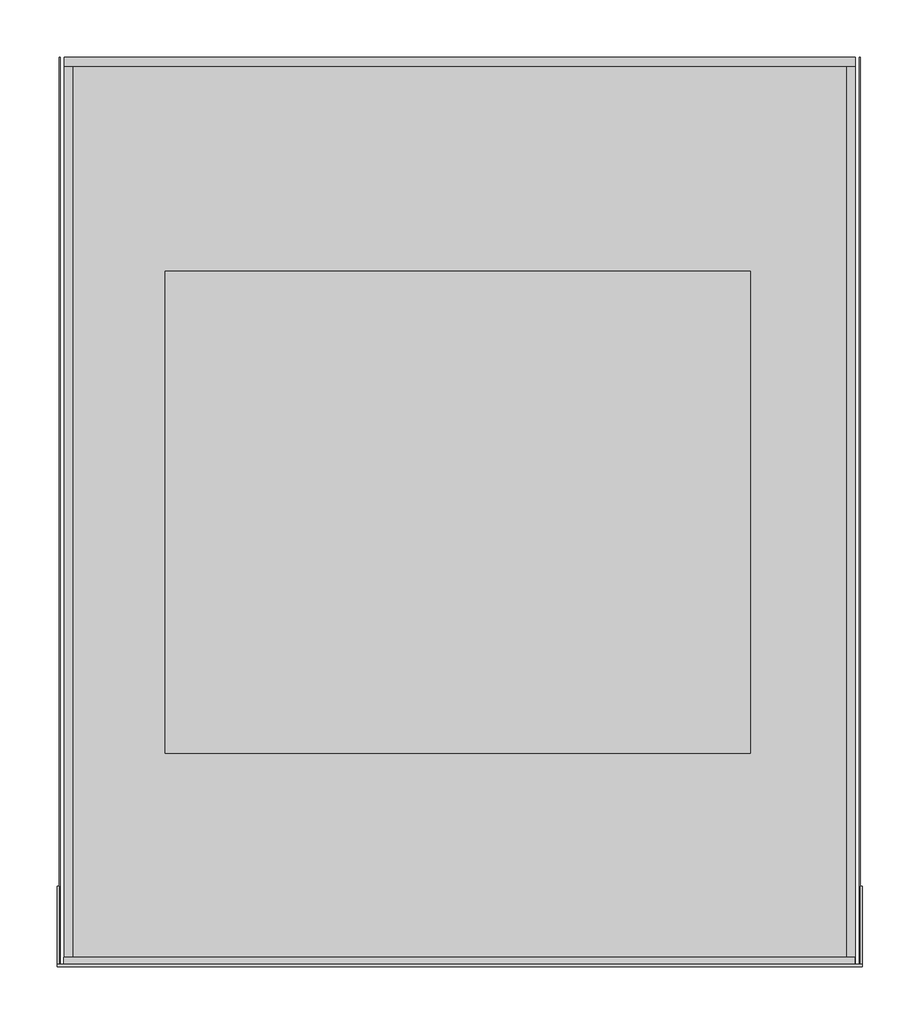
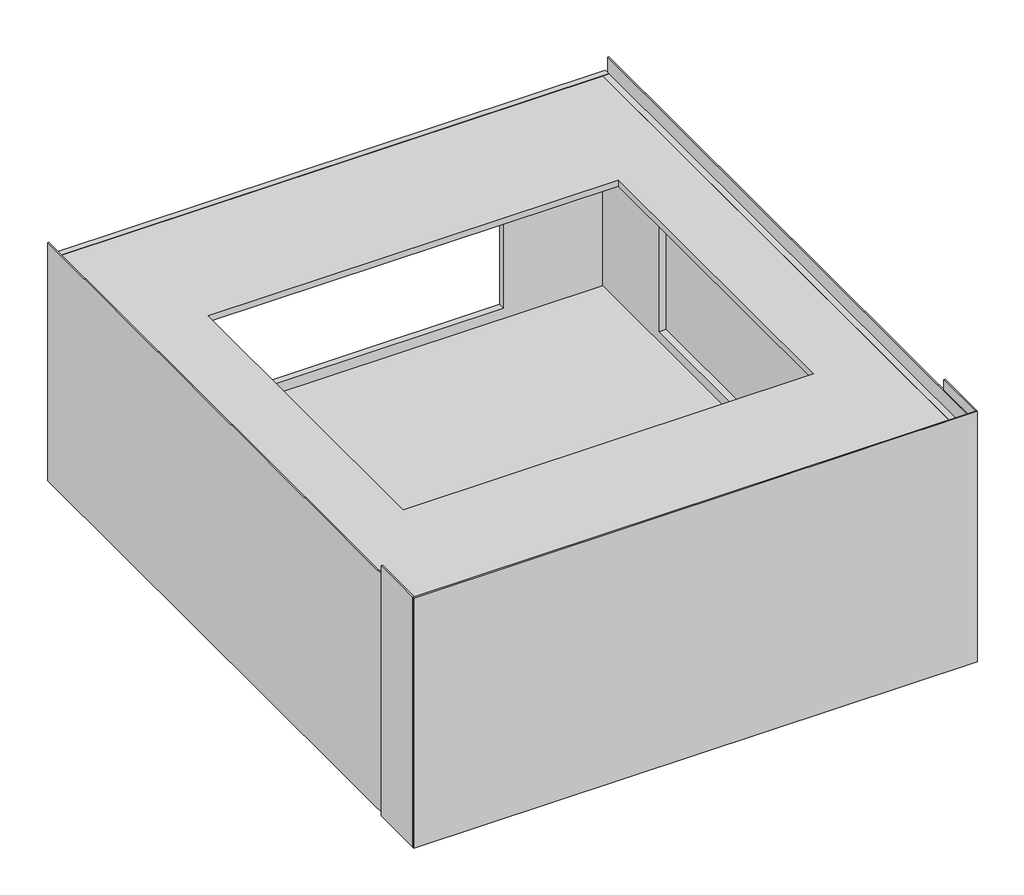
# Not in any storey: 1 proxy.
"""IFC4 building model written with IfcOpenShell, lengths in millimetres."""

from ifc_helpers import new_model, si_unit, origin, place, context, project, spatial, transform, mapped, element, save
from components import specialty_equipment_2ddadef6

model = new_model("IFC4")

# Units and contexts
model_context = context("Model", 3, world=origin())
ifc_project = project(units=[si_unit("LENGTHUNIT", "METRE", prefix="MILLI")], contexts=[model_context])

# Site, building
site = spatial("IfcSite", under=ifc_project)
building = spatial("IfcBuilding", under=site)

# Proxy
placement = place(None, origin())
specialty_equipment_shape = specialty_equipment_2ddadef6(model_context)
element("IfcBuildingElementProxy", 1, Name="11792150_EU_APWM039_IG : 59510039_EU_11792150_APWM039_IG", ObjectType="11792150_EU_APWM039_IG : 59510039_EU_11792150_APWM039_IG", at=placement, inside=building, context=model_context, shape_type="MappedRepresentation", body=[
    mapped(specialty_equipment_shape, transform((0.0, 0.0, 0.0), x_axis=(1.0, 0.0, 0.0), y_axis=(0.0, 1.0, 0.0), z_axis=(0.0, 0.0, 1.0))),
])

save(model, "model.ifc")
